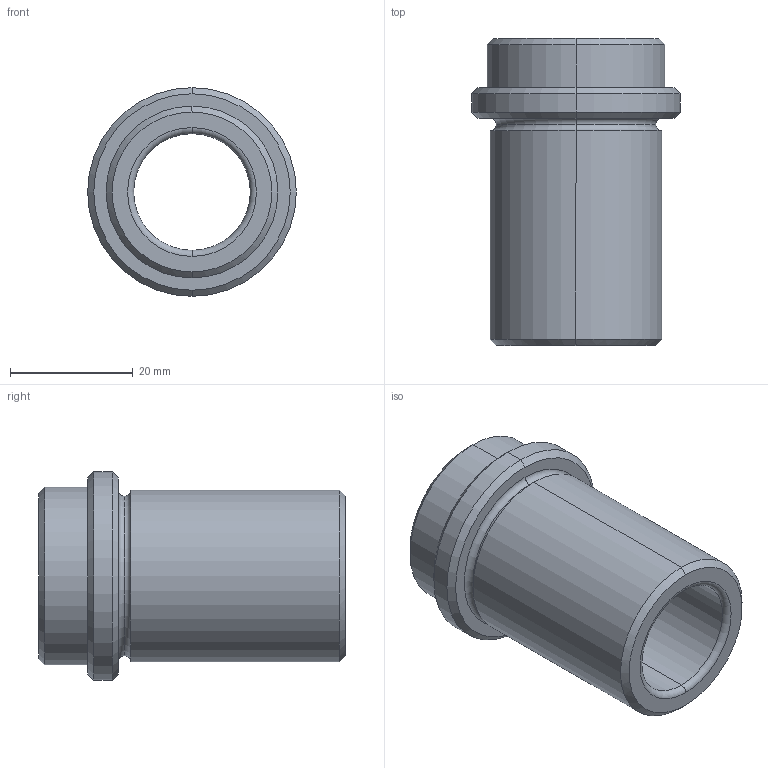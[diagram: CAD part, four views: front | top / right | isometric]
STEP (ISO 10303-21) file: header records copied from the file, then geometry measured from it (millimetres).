
FILE_DESCRIPTION(('CATIA V5 STEP Exchange'),'2;1');
FILE_NAME('C:\Users\Utente\Desktop\IO LAVORO\3D X SITO CF\X SITO\CF 439\CF 439 19x50.stp','2020-12-27T21:02:45+00:00',('none'),('none'),'CATIA Version 5 Release 20 GA (IN-10)','CATIA V5 STEP AP203','none');
FILE_SCHEMA(('CONFIG_CONTROL_DESIGN'));
Length unit declared in the file: millimetre
Products named in the file (1): CF 439 19x50
Bounding box: 34 x 50 x 34 mm (x, y, z)
Volume: 18077.8 mm3; surface area: 8553.2 mm2
Topology: 1 solids, 1 shells, 28 faces, 86 edges, 62 vertices
Faces by surface type: torus 8, cylinder 8, cone 8, plane 4
Entity records: 1056 total; most frequent: CARTESIAN_POINT 233, ORIENTED_EDGE 172, DIRECTION 138, AXIS2_PLACEMENT_3D 95, EDGE_CURVE 86, CIRCLE 66, VERTEX_POINT 62, EDGE_LOOP 32
